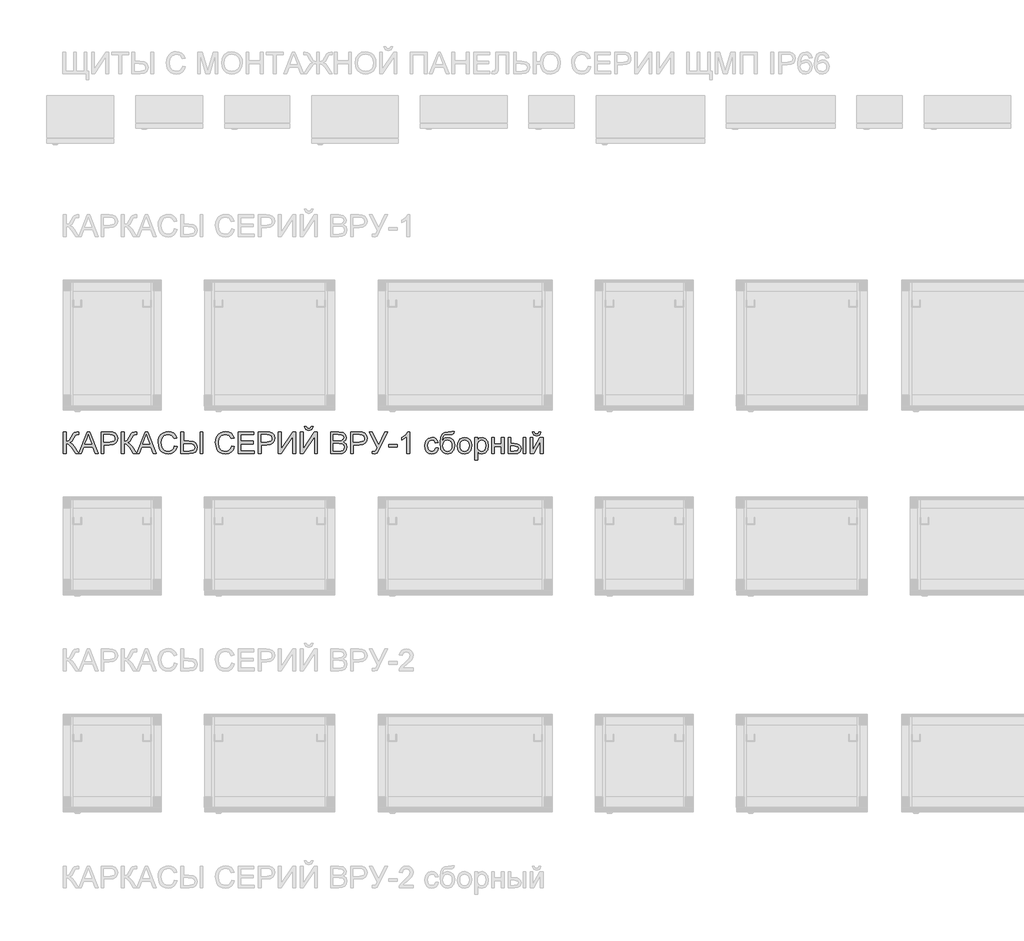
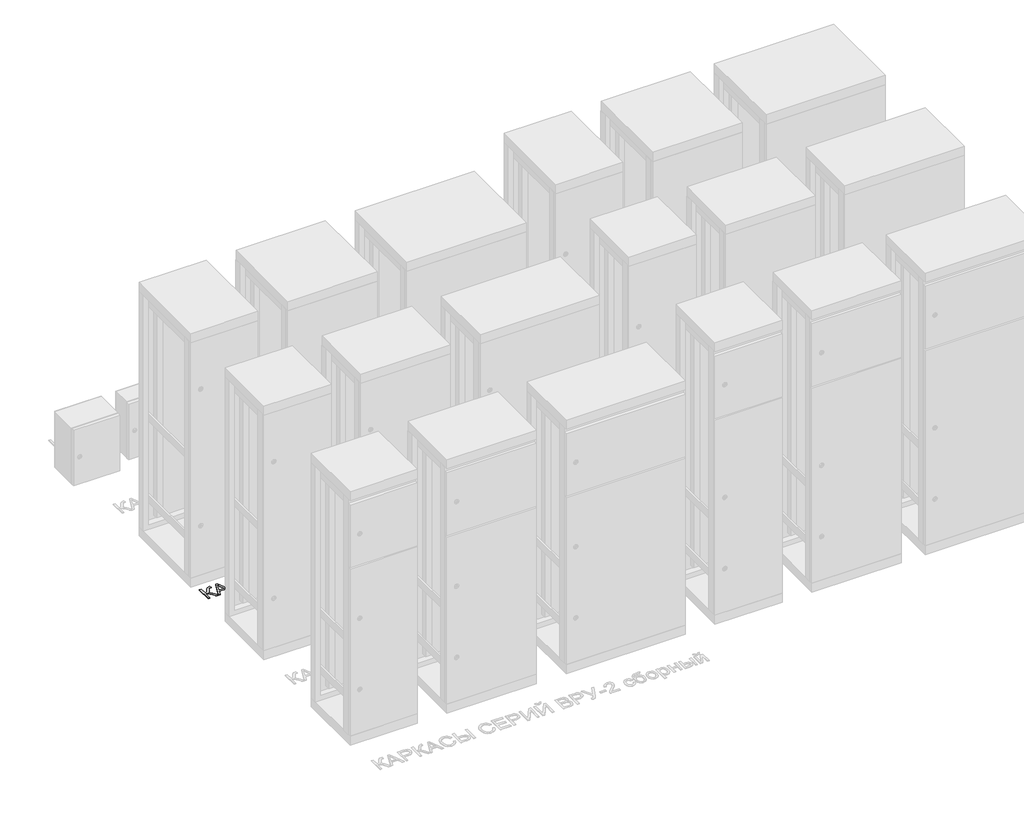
# One storey, part 7 of 25: 1 proxy.
"""IFC4 building model written with IfcOpenShell, lengths in millimetres."""

from ifc_helpers import new_model, si_unit, frame, origin, place, context, project, spatial, polyline, outline, extrude, element, save

model = new_model("IFC4")

# Units and contexts
model_context = context("Model", 3, world=origin())
ifc_project = project(units=[si_unit("LENGTHUNIT", "METRE", prefix="MILLI")], contexts=[model_context])

# Site, building, storey
site = spatial("IfcSite", under=ifc_project)
building = spatial("IfcBuilding", under=site)
storey = spatial("IfcBuildingStorey", under=building, Name="Этаж 01", Elevation=0.0)

# Proxy
placement = place(None, origin())
element("IfcBuildingElementProxy", 1, Name="Надпись на модели 1", ObjectType="Надпись на модели 1", at=placement, inside=storey, context=model_context, shape_type="SweptSolid", body=[
    extrude(outline(polyline([(-18982.0558227, 2786.235284), (-18999.9103622, 2814.5376722), (-19012.4796637, 2829.3142656), (-19025.564, 2833.3241794), (-19025.564, 2786.235284), (-19038.1210387, 2786.235284), (-19038.1210387, 2886.6915941), (-19025.564, 2886.6915941), (-19025.564, 2842.7419585), (-19011.5231705, 2846.0651591), (-19001.7252467, 2862.8773663), (-18994.7968024, 2876.9181958), (-18986.9486532, 2883.8711655), (-18975.7282523, 2886.6915941), (-18967.4876957, 2886.5444413), (-18967.4876957, 2873.9874026), (-18970.2590734, 2874.060979), (-18973.030451, 2874.1345554), (-18982.8406376, 2871.117923), (-18990.2963794, 2858.1930022), (-18999.1868609, 2842.4476529), (-19007.8566133, 2837.248254), (-18998.1629227, 2831.5706085), (-18988.6041222, 2819.737071), (-18967.9231583, 2786.9261574), (-18928.0997967, 2886.6915941), (-18917.4066934, 2886.6915941), (-18877.3075559, 2786.235284), (-18890.5758332, 2786.235284), (-18902.0782769, 2817.6278809), (-18943.4527386, 2817.6278809), (-18954.9306569, 2786.235284), (-18968.1989342, 2786.235284), (-18982.0558227, 2786.235284)]), holes=[polyline([(-18938.841951, 2830.1849197), (-18906.6645391, 2830.1849197), (-18915.7144362, 2854.8820643), (-18922.753245, 2874.1345554), (-18929.007239, 2857.0403053), (-18938.841951, 2830.1849197)])]), frame((0.0, 0.0, 40.0), z_axis=(0.0, 0.0, 1.0), x_axis=(1.0, 0.0, 0.0)), (0.0, 0.0, 1.0), 2.0),
    extrude(outline(polyline([(-18863.8921258, 2786.235284), (-18863.8921258, 2886.6915941), (-18826.6624679, 2886.6915941), (-18811.6528825, 2885.735101), (-18799.451463, 2881.0384742), (-18791.5420001, 2871.3263895), (-18788.5498932, 2857.6289165), (-18790.5701785, 2845.7892476), (-18796.6310344, 2835.9238788), (-18807.9648655, 2829.2652147), (-18825.8040766, 2827.04566), (-18851.335087, 2827.04566), (-18851.335087, 2786.235284), (-18863.8921258, 2786.235284)]), holes=[polyline([(-18851.335087, 2839.6026988), (-18825.0683126, 2839.6026988), (-18806.576111, 2844.2134864), (-18802.4742267, 2849.7623732), (-18801.106932, 2857.1874581), (-18804.3320308, 2867.5862559), (-18812.8055794, 2873.2761641), (-18825.3626182, 2874.1345554), (-18851.335087, 2874.1345554), (-18851.335087, 2839.6026988)])]), frame((0.0, 0.0, 40.0), z_axis=(0.0, 0.0, 1.0), x_axis=(1.0, 0.0, 0.0)), (0.0, 0.0, 1.0), 2.0),
    extrude(outline(polyline([(-18715.2187488, 2786.235284), (-18733.0732883, 2814.5376722), (-18745.6425898, 2829.3142656), (-18758.7269261, 2833.3241794), (-18758.7269261, 2786.235284), (-18771.2839649, 2786.235284), (-18771.2839649, 2886.6915941), (-18758.7269261, 2886.6915941), (-18758.7269261, 2842.7419585), (-18744.6860966, 2846.0651591), (-18734.8881728, 2862.8773663), (-18727.9597286, 2876.9181958), (-18720.1115794, 2883.8711655), (-18708.8911785, 2886.6915941), (-18700.6506218, 2886.5444413), (-18700.6506218, 2873.9874026), (-18703.4219995, 2874.060979), (-18706.1933772, 2874.1345554), (-18716.0035638, 2871.117923), (-18723.4593055, 2858.1930022), (-18732.3497871, 2842.4476529), (-18741.0195394, 2837.248254), (-18731.3258489, 2831.5706085), (-18721.7670483, 2819.737071), (-18701.0860845, 2786.9261574), (-18661.2627229, 2886.6915941), (-18650.5696195, 2886.6915941), (-18610.4704821, 2786.235284), (-18623.7387594, 2786.235284), (-18635.2412031, 2817.6278809), (-18676.6156648, 2817.6278809), (-18688.0935831, 2786.235284), (-18701.3618603, 2786.235284), (-18715.2187488, 2786.235284)]), holes=[polyline([(-18672.0048771, 2830.1849197), (-18639.8274653, 2830.1849197), (-18648.8773624, 2854.8820643), (-18655.9161712, 2874.1345554), (-18662.1701651, 2857.0403053), (-18672.0048771, 2830.1849197)])]), frame((0.0, 0.0, 40.0), z_axis=(0.0, 0.0, 1.0), x_axis=(1.0, 0.0, 0.0)), (0.0, 0.0, 1.0), 2.0),
    extrude(outline(polyline([(-18526.4217089, 2821.944363), (-18513.8646701, 2818.7070014), (-18519.6588116, 2804.0744951), (-18528.7516282, 2793.3844574), (-18540.6955303, 2786.845355), (-18555.0429281, 2784.6656541), (-18569.6079895, 2786.3149918), (-18581.1748125, 2791.2630046), (-18590.0407686, 2799.3380144), (-18596.503229, 2810.3683429), (-18601.7639415, 2837.2237285), (-18600.2770851, 2851.8715633), (-18595.8165159, 2864.5205726), (-18588.6152259, 2874.7691518), (-18578.9062069, 2882.2156965), (-18567.3915004, 2886.7498421), (-18554.773148, 2888.261224), (-18541.0051643, 2886.305318), (-18529.6222823, 2880.4376002), (-18520.9801211, 2871.0198211), (-18515.4343, 2858.4137314), (-18527.9913387, 2855.4216246), (-18538.2920346, 2870.8604056), (-18555.2636573, 2875.7041852), (-18574.9085559, 2870.3331081), (-18586.0063294, 2855.9121339), (-18589.2069027, 2837.248254), (-18585.4177182, 2815.6167927), (-18573.6209689, 2801.7966924), (-18556.2937269, 2797.2226929), (-18545.8121557, 2798.78006), (-18537.078024, 2803.4521614), (-18530.4837393, 2811.189946), (-18526.4217089, 2821.944363)])), frame((0.0, 0.0, 40.0), z_axis=(0.0, 0.0, 1.0), x_axis=(1.0, 0.0, 0.0)), (0.0, 0.0, 1.0), 2.0),
    extrude(outline(polyline([(-18496.5987418, 2886.6915941), (-18484.0417031, 2886.6915941), (-18484.0417031, 2844.3115883), (-18459.9086442, 2844.3115883), (-18440.269877, 2842.1165591), (-18428.7367765, 2835.5314713), (-18423.126576, 2826.1627432), (-18421.2565092, 2815.6167927), (-18423.2338749, 2804.6017926), (-18429.1659721, 2795.0521891), (-18440.4691464, 2788.4395103), (-18458.5597435, 2786.235284), (-18496.5987418, 2786.235284), (-18496.5987418, 2886.6915941)]), holes=[polyline([(-18484.0417031, 2798.7923228), (-18458.6823709, 2798.7923228), (-18439.7119226, 2802.777711), (-18435.2881416, 2807.9617815), (-18433.813548, 2815.5432163), (-18437.3820033, 2825.5250811), (-18446.6035787, 2830.6509035), (-18465.475925, 2831.7545495), (-18484.0417031, 2831.7545495), (-18484.0417031, 2798.7923228)])]), frame((0.0, 0.0, 40.0), z_axis=(0.0, 0.0, 1.0), x_axis=(1.0, 0.0, 0.0)), (0.0, 0.0, 1.0), 2.0),
    extrude(outline(polyline([(-18408.6994704, 2886.6915941), (-18396.1424317, 2886.6915941), (-18396.1424317, 2786.235284), (-18408.6994704, 2786.235284), (-18408.6994704, 2886.6915941)])), frame((0.0, 0.0, 40.0), z_axis=(0.0, 0.0, 1.0), x_axis=(1.0, 0.0, 0.0)), (0.0, 0.0, 1.0), 2.0),
    extrude(outline(polyline([(-18262.7238948, 2821.944363), (-18250.166856, 2818.7070014), (-18255.9609974, 2804.0744951), (-18265.0538141, 2793.3844574), (-18276.9977162, 2786.845355), (-18291.345114, 2784.6656541), (-18305.9101753, 2786.3149918), (-18317.4769984, 2791.2630046), (-18326.3429545, 2799.3380144), (-18332.8054148, 2810.3683429), (-18338.0661274, 2837.2237285), (-18336.579271, 2851.8715633), (-18332.1187018, 2864.5205726), (-18324.9174117, 2874.7691518), (-18315.2083927, 2882.2156965), (-18303.6936863, 2886.7498421), (-18291.0753339, 2888.261224), (-18277.3073502, 2886.305318), (-18265.9244681, 2880.4376002), (-18257.2823069, 2871.0198211), (-18251.7364858, 2858.4137314), (-18264.2935246, 2855.4216246), (-18274.5942205, 2870.8604056), (-18291.5658432, 2875.7041852), (-18311.2107417, 2870.3331081), (-18322.3085152, 2855.9121339), (-18325.5090886, 2837.248254), (-18321.7199041, 2815.6167927), (-18309.9231547, 2801.7966924), (-18292.5959128, 2797.2226929), (-18282.1143416, 2798.78006), (-18273.3802099, 2803.4521614), (-18266.7859251, 2811.189946), (-18262.7238948, 2821.944363)])), frame((0.0, 0.0, 40.0), z_axis=(0.0, 0.0, 1.0), x_axis=(1.0, 0.0, 0.0)), (0.0, 0.0, 1.0), 2.0),
    extrude(outline(polyline([(-18232.9009277, 2786.235284), (-18232.9009277, 2886.6915941), (-18160.6979548, 2886.6915941), (-18160.6979548, 2874.1345554), (-18220.3438889, 2874.1345554), (-18220.3438889, 2844.3115883), (-18163.8372145, 2844.3115883), (-18163.8372145, 2831.7545495), (-18220.3438889, 2831.7545495), (-18220.3438889, 2798.7923228), (-18159.1283249, 2798.7923228), (-18159.1283249, 2786.235284), (-18232.9009277, 2786.235284)])), frame((0.0, 0.0, 40.0), z_axis=(0.0, 0.0, 1.0), x_axis=(1.0, 0.0, 0.0)), (0.0, 0.0, 1.0), 2.0),
    extrude(outline(polyline([(-18140.2927668, 2786.235284), (-18140.2927668, 2886.6915941), (-18103.0631089, 2886.6915941), (-18088.0535235, 2885.735101), (-18075.8521039, 2881.0384742), (-18067.942641, 2871.3263895), (-18064.9505342, 2857.6289165), (-18066.9708194, 2845.7892476), (-18073.0316753, 2835.9238788), (-18084.3655064, 2829.2652147), (-18102.2047175, 2827.04566), (-18127.735728, 2827.04566), (-18127.735728, 2786.235284), (-18140.2927668, 2786.235284)]), holes=[polyline([(-18127.735728, 2839.6026988), (-18101.4689535, 2839.6026988), (-18082.9767519, 2844.2134864), (-18078.8748677, 2849.7623732), (-18077.5075729, 2857.1874581), (-18080.7326717, 2867.5862559), (-18089.2062204, 2873.2761641), (-18101.7632591, 2874.1345554), (-18127.735728, 2874.1345554), (-18127.735728, 2839.6026988)])]), frame((0.0, 0.0, 40.0), z_axis=(0.0, 0.0, 1.0), x_axis=(1.0, 0.0, 0.0)), (0.0, 0.0, 1.0), 2.0),
    extrude(outline(polyline([(-18047.6846058, 2886.6915941), (-18035.1275671, 2886.6915941), (-18035.1275671, 2807.1309813), (-17982.5449672, 2886.6915941), (-17969.2031135, 2886.6915941), (-17969.2031135, 2786.235284), (-17981.7601523, 2786.235284), (-17981.7601523, 2865.5751676), (-18034.2201248, 2786.235284), (-18047.6846058, 2786.235284), (-18047.6846058, 2886.6915941)])), frame((0.0, 0.0, 40.0), z_axis=(0.0, 0.0, 1.0), x_axis=(1.0, 0.0, 0.0)), (0.0, 0.0, 1.0), 2.0),
    extrude(outline(polyline([(-17897.0001406, 2911.8056717), (-17887.5823615, 2911.8056717), (-17893.6769399, 2897.8384186), (-17907.2027346, 2892.9701135), (-17921.844438, 2897.8016304), (-17928.3927375, 2911.8056717), (-17918.9749585, 2911.8056717), (-17915.4432913, 2904.7300746), (-17908.3309061, 2902.3878926), (-17900.5318078, 2904.6564982), (-17897.0001406, 2911.8056717)])), frame((0.0, 0.0, 40.0), z_axis=(0.0, 0.0, 1.0), x_axis=(1.0, 0.0, 0.0)), (0.0, 0.0, 1.0), 2.0),
    extrude(outline(polyline([(-17947.2282957, 2886.6915941), (-17934.6712569, 2886.6915941), (-17934.6712569, 2807.1309813), (-17882.0886571, 2886.6915941), (-17868.7468034, 2886.6915941), (-17868.7468034, 2786.235284), (-17881.3038422, 2786.235284), (-17881.3038422, 2865.5751676), (-17933.7638147, 2786.235284), (-17947.2282957, 2786.235284), (-17947.2282957, 2886.6915941)])), frame((0.0, 0.0, 40.0), z_axis=(0.0, 0.0, 1.0), x_axis=(1.0, 0.0, 0.0)), (0.0, 0.0, 1.0), 2.0),
    extrude(outline(polyline([(-17807.5312394, 2786.235284), (-17807.5312394, 2886.6915941), (-17769.1979355, 2886.6915941), (-17750.423691, 2883.7362754), (-17739.3381802, 2874.6495902), (-17735.3282665, 2861.7982458), (-17738.7005181, 2850.0628102), (-17748.8908494, 2841.1723286), (-17736.5177516, 2831.8036005), (-17732.1890068, 2816.1808784), (-17735.1443255, 2802.6796092), (-17742.4651772, 2793.0656264), (-17753.3912724, 2787.9643294), (-17769.4922411, 2786.235284), (-17807.5312394, 2786.235284)]), holes=[polyline([(-17794.9742006, 2845.8812181), (-17772.0428896, 2845.8812181), (-17758.651985, 2846.9603387), (-17750.5953693, 2851.6079145), (-17747.8853052, 2859.7871576), (-17750.4114283, 2867.9786633), (-17757.6464408, 2872.8224429), (-17773.7841977, 2874.1345554), (-17794.9742006, 2874.1345554), (-17794.9742006, 2845.8812181)]), polyline([(-17794.9742006, 2798.7923228), (-17769.222461, 2798.7923228), (-17759.9027838, 2799.2828321), (-17752.0178463, 2802.0174216), (-17746.793922, 2807.5969652), (-17744.7460456, 2816.0582511), (-17747.1495413, 2825.8193867), (-17754.9363768, 2831.6441849), (-17770.4487343, 2833.3241794), (-17794.9742006, 2833.3241794), (-17794.9742006, 2798.7923228)])]), frame((0.0, 0.0, 40.0), z_axis=(0.0, 0.0, 1.0), x_axis=(1.0, 0.0, 0.0)), (0.0, 0.0, 1.0), 2.0),
    extrude(outline(polyline([(-17714.9230785, 2786.235284), (-17714.9230785, 2886.6915941), (-17677.6934206, 2886.6915941), (-17662.6838352, 2885.735101), (-17650.4824157, 2881.0384742), (-17642.5729528, 2871.3263895), (-17639.5808459, 2857.6289165), (-17641.6011312, 2845.7892476), (-17647.661987, 2835.9238788), (-17658.9958182, 2829.2652147), (-17676.8350292, 2827.04566), (-17702.3660397, 2827.04566), (-17702.3660397, 2786.235284), (-17714.9230785, 2786.235284)]), holes=[polyline([(-17702.3660397, 2839.6026988), (-17676.0992653, 2839.6026988), (-17657.6070636, 2844.2134864), (-17653.5051794, 2849.7623732), (-17652.1378846, 2857.1874581), (-17655.3629835, 2867.5862559), (-17663.8365321, 2873.2761641), (-17676.3935708, 2874.1345554), (-17702.3660397, 2874.1345554), (-17702.3660397, 2839.6026988)])]), frame((0.0, 0.0, 40.0), z_axis=(0.0, 0.0, 1.0), x_axis=(1.0, 0.0, 0.0)), (0.0, 0.0, 1.0), 2.0),
    extrude(outline(polyline([(-17629.3782519, 2886.6915941), (-17615.4723124, 2886.6915941), (-17585.4286162, 2827.1928128), (-17558.4015523, 2886.6915941), (-17544.6182402, 2886.6915941), (-17582.7553403, 2808.430831), (-17593.1296126, 2789.2028654), (-17604.7301582, 2784.6656541), (-17616.0363982, 2786.235284), (-17616.0363982, 2797.2226929), (-17606.1526352, 2797.2226929), (-17598.8195208, 2800.0185961), (-17592.0259666, 2812.7473131), (-17629.3782519, 2886.6915941)])), frame((0.0, 0.0, 40.0), z_axis=(0.0, 0.0, 1.0), x_axis=(1.0, 0.0, 0.0)), (0.0, 0.0, 1.0), 2.0),
    extrude(outline(polyline([(-17540.6941656, 2816.0582511), (-17540.6941656, 2828.6152898), (-17501.4534194, 2828.6152898), (-17501.4534194, 2816.0582511), (-17540.6941656, 2816.0582511)])), frame((0.0, 0.0, 40.0), z_axis=(0.0, 0.0, 1.0), x_axis=(1.0, 0.0, 0.0)), (0.0, 0.0, 1.0), 2.0),
    extrude(outline(polyline([(-17443.3771151, 2786.235284), (-17455.9341539, 2786.235284), (-17455.9341539, 2864.5205726), (-17467.829005, 2856.0470239), (-17481.0482314, 2849.7071909), (-17481.0482314, 2861.5775166), (-17462.6418689, 2873.325215), (-17451.470519, 2886.6915941), (-17443.3771151, 2886.6915941), (-17443.3771151, 2786.235284)])), frame((0.0, 0.0, 40.0), z_axis=(0.0, 0.0, 1.0), x_axis=(1.0, 0.0, 0.0)), (0.0, 0.0, 1.0), 2.0),
    extrude(outline(polyline([(-17324.0852468, 2812.9189914), (-17311.528208, 2811.3493615), (-17315.0292184, 2800.1810773), (-17321.6081747, 2791.7412512), (-17330.645809, 2786.4345534), (-17341.5228534, 2784.6656541), (-17354.8800355, 2787.1335292), (-17365.3248185, 2794.5371544), (-17372.066256, 2806.5515672), (-17374.3134019, 2822.8518052), (-17370.4751664, 2843.7107144), (-17358.7765189, 2857.1138817), (-17341.6945316, 2861.5775166), (-17331.0842018, 2860.044675), (-17322.6014561, 2855.44615), (-17316.5160747, 2848.0271964), (-17313.0978379, 2838.0330689), (-17325.6548766, 2836.4634391), (-17331.4796749, 2845.8689554), (-17341.5964298, 2849.0204778), (-17349.7112934, 2847.4692421), (-17356.152294, 2842.8155349), (-17360.3553458, 2834.8079701), (-17361.7563631, 2823.1951618), (-17360.3860027, 2811.4260036), (-17356.2749214, 2803.3908477), (-17349.9504167, 2798.7647316), (-17341.9397863, 2797.2226929), (-17330.1062488, 2801.0731911), (-17324.0852468, 2812.9189914)])), frame((0.0, 0.0, 40.0), z_axis=(0.0, 0.0, 1.0), x_axis=(1.0, 0.0, 0.0)), (0.0, 0.0, 1.0), 2.0),
    extrude(outline(polyline([(-17248.7430142, 2888.261224), (-17237.7556053, 2888.261224), (-17240.9929668, 2878.4633002), (-17247.3941135, 2874.9193703), (-17262.7715809, 2874.1345554), (-17283.4833373, 2871.2405503), (-17291.4295884, 2861.9699241), (-17294.1151269, 2845.5623871), (-17283.2380826, 2857.5798656), (-17269.2217786, 2861.5775166), (-17256.1558364, 2859.0360652), (-17245.5547036, 2851.4117108), (-17238.5281575, 2839.4524803), (-17236.1859754, 2823.9064003), (-17240.8335513, 2802.2994644), (-17251.8577484, 2789.2641791), (-17269.2217786, 2784.6656541), (-17280.5556097, 2786.1463792), (-17289.0506181, 2790.5885543), (-17299.903137, 2805.7452925), (-17303.6800588, 2837.9104416), (-17301.2980229, 2862.0036466), (-17294.1519151, 2876.6974666), (-17282.0639259, 2884.1930623), (-17264.8562456, 2886.6915941), (-17250.8767298, 2886.973637), (-17248.7430142, 2888.261224)]), holes=[polyline([(-17248.7430142, 2824.2988078), (-17250.1041776, 2834.179505), (-17254.1876677, 2842.0920336), (-17260.74823, 2847.2883668), (-17269.5406096, 2849.0204778), (-17278.7070027, 2847.1902649), (-17285.5066882, 2841.6996261), (-17289.7189371, 2833.1494354), (-17291.12302, 2822.1405667), (-17289.5717843, 2811.4689232), (-17284.918077, 2803.6361024), (-17277.9896328, 2798.8260453), (-17269.614186, 2797.2226929), (-17261.1958197, 2799.0774313), (-17254.5310242, 2804.6416465), (-17250.1900167, 2813.2654136), (-17248.7430142, 2824.2988078)])]), frame((0.0, 0.0, 40.0), z_axis=(0.0, 0.0, 1.0), x_axis=(1.0, 0.0, 0.0)), (0.0, 0.0, 1.0), 2.0),
    extrude(outline(polyline([(-17223.6289367, 2823.1215854), (-17220.9127413, 2840.9086798), (-17212.7641551, 2853.4105363), (-17202.6964511, 2859.5357715), (-17190.6421844, 2861.5775166), (-17177.4505492, 2859.0912475), (-17166.9137957, 2851.63244), (-17160.0068113, 2839.7897054), (-17157.7044831, 2824.151655), (-17161.7757105, 2801.8089551), (-17173.6337735, 2789.1660772), (-17190.6421844, 2784.6656541), (-17203.9932352, 2787.1427262), (-17214.5177259, 2794.5739426), (-17221.351134, 2806.6649975), (-17223.6289367, 2823.1215854)]), holes=[polyline([(-17211.0718979, 2823.1461108), (-17209.618764, 2811.7816229), (-17205.2593624, 2803.6851533), (-17198.6988001, 2798.838308), (-17190.6421844, 2797.2226929), (-17182.6223569, 2798.8475051), (-17176.0740574, 2803.7219415), (-17171.7146558, 2811.92571), (-17170.2615219, 2823.5385183), (-17171.7238528, 2834.5719125), (-17176.1108456, 2842.5580175), (-17182.6683422, 2847.4048627), (-17190.6421844, 2849.0204778), (-17198.6988001, 2847.4109941), (-17205.2593624, 2842.5825429), (-17209.618764, 2834.5044674), (-17211.0718979, 2823.1461108)])]), frame((0.0, 0.0, 40.0), z_axis=(0.0, 0.0, 1.0), x_axis=(1.0, 0.0, 0.0)), (0.0, 0.0, 1.0), 2.0),
    extrude(outline(polyline([(-17143.5778145, 2757.9819468), (-17143.5778145, 2860.0078868), (-17131.0207757, 2860.0078868), (-17131.0207757, 2847.6961027), (-17122.3387606, 2858.1071631), (-17110.6155877, 2861.5775166), (-17094.6985601, 2856.7214743), (-17084.2997623, 2843.036264), (-17080.7926207, 2823.6856711), (-17084.7534835, 2803.3417968), (-17096.2559272, 2789.4849083), (-17112.1361666, 2784.6656541), (-17123.0622619, 2787.890753), (-17131.0207757, 2796.0454705), (-17131.0207757, 2757.9819468), (-17143.5778145, 2757.9819468)]), holes=[polyline([(-17131.0207757, 2822.5329742), (-17129.662678, 2811.2757851), (-17125.5883849, 2803.4031104), (-17119.57658, 2798.7677973), (-17112.4059468, 2797.2226929), (-17105.1188176, 2798.8229796), (-17098.9537285, 2803.6238396), (-17094.7506767, 2811.7846886), (-17093.3496594, 2823.4649419), (-17094.7169542, 2834.6608173), (-17098.8188384, 2842.6438566), (-17104.8214463, 2847.4263225), (-17111.890912, 2849.0204778), (-17118.9879688, 2847.325155), (-17125.2205029, 2842.2391864), (-17129.5707075, 2833.9219876), (-17131.0207757, 2822.5329742)])]), frame((0.0, 0.0, 40.0), z_axis=(0.0, 0.0, 1.0), x_axis=(1.0, 0.0, 0.0)), (0.0, 0.0, 1.0), 2.0),
    extrude(outline(polyline([(-17066.665952, 2860.0078868), (-17054.1089133, 2860.0078868), (-17054.1089133, 2831.7545495), (-17021.1466865, 2831.7545495), (-17021.1466865, 2860.0078868), (-17008.5896477, 2860.0078868), (-17008.5896477, 2786.235284), (-17021.1466865, 2786.235284), (-17021.1466865, 2819.1975108), (-17054.1089133, 2819.1975108), (-17054.1089133, 2786.235284), (-17066.665952, 2786.235284), (-17066.665952, 2860.0078868)])), frame((0.0, 0.0, 40.0), z_axis=(0.0, 0.0, 1.0), x_axis=(1.0, 0.0, 0.0)), (0.0, 0.0, 1.0), 2.0),
    extrude(outline(polyline([(-16920.6903764, 2860.0078868), (-16908.1333376, 2860.0078868), (-16908.1333376, 2786.235284), (-16920.6903764, 2786.235284), (-16920.6903764, 2860.0078868)])), frame((0.0, 0.0, 40.0), z_axis=(0.0, 0.0, 1.0), x_axis=(1.0, 0.0, 0.0)), (0.0, 0.0, 1.0), 2.0),
    extrude(outline(polyline([(-16989.7540896, 2860.0078868), (-16977.1970508, 2860.0078868), (-16977.1970508, 2833.3241794), (-16961.6724306, 2833.3241794), (-16948.2539348, 2831.7514838), (-16938.3119239, 2827.0333973), (-16932.1590976, 2819.5500643), (-16930.1081554, 2809.6816298), (-16931.8280038, 2800.6961121), (-16936.9875487, 2793.1146773), (-16945.9240155, 2787.9551323), (-16958.9746293, 2786.235284), (-16989.7540896, 2786.235284), (-16989.7540896, 2860.0078868)]), holes=[polyline([(-16977.1970508, 2798.7923228), (-16964.2966555, 2798.7923228), (-16947.6438639, 2801.4288104), (-16942.6651942, 2809.6571044), (-16946.3562769, 2817.3826263), (-16962.6534493, 2820.7671406), (-16977.1970508, 2820.7671406), (-16977.1970508, 2798.7923228)])]), frame((0.0, 0.0, 40.0), z_axis=(0.0, 0.0, 1.0), x_axis=(1.0, 0.0, 0.0)), (0.0, 0.0, 1.0), 2.0),
    extrude(outline(polyline([(-16848.4874034, 2886.6915941), (-16839.0696244, 2886.6915941), (-16845.1642027, 2872.7243411), (-16858.6899974, 2867.856036), (-16873.3317008, 2872.6875529), (-16879.8800004, 2886.6915941), (-16870.4622213, 2886.6915941), (-16866.9305541, 2879.6159971), (-16859.8181689, 2877.2738151), (-16852.0190706, 2879.5424207), (-16848.4874034, 2886.6915941)])), frame((0.0, 0.0, 40.0), z_axis=(0.0, 0.0, 1.0), x_axis=(1.0, 0.0, 0.0)), (0.0, 0.0, 1.0), 2.0),
    extrude(outline(polyline([(-16889.2977794, 2860.0078868), (-16876.7407407, 2860.0078868), (-16876.7407407, 2803.746467), (-16845.887704, 2860.0078868), (-16829.6518453, 2860.0078868), (-16829.6518453, 2786.235284), (-16842.2088841, 2786.235284), (-16842.2088841, 2842.1533473), (-16872.865717, 2786.235284), (-16889.2977794, 2786.235284), (-16889.2977794, 2860.0078868)])), frame((0.0, 0.0, 40.0), z_axis=(0.0, 0.0, 1.0), x_axis=(1.0, 0.0, 0.0)), (0.0, 0.0, 1.0), 2.0),
])

save(model, "model.ifc")
